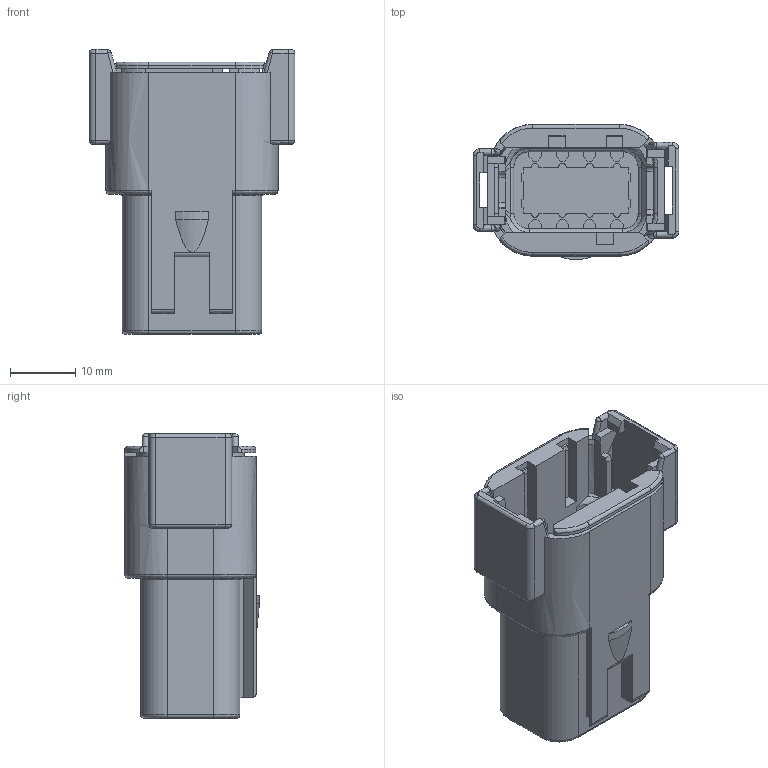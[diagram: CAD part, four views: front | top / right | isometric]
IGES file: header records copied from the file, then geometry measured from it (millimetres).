
Start section:  PTC IGES file: c-dtm04-08pa-99-3d.igs
Global section: file name: c-dtm04-08pa-99-3d.igs; native system: Pro/ENGINEER by Parametric Technology Corporation; preprocessor: 2011490; author: workeradm; organization: Unknown; units: millimetre
Bounding box: 31.62 x 20.73 x 43.69 mm (x, y, z)
Surface area: 7989.2 mm2 (no closed solid volume)
Topology: 0 solids, 0 shells, 620 faces, 3318 edges, 3318 vertices
Faces by surface type: bspline 421, revolution 199
